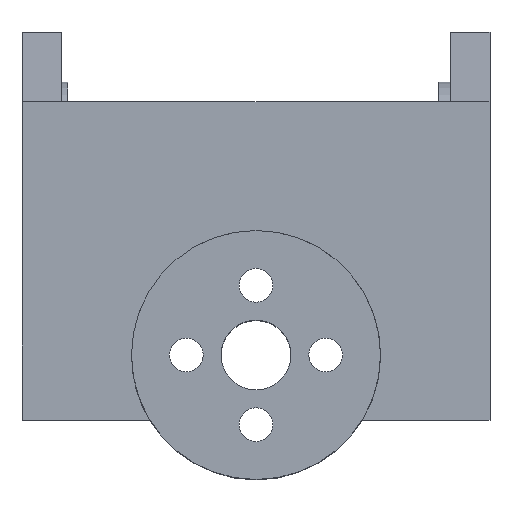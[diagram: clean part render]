
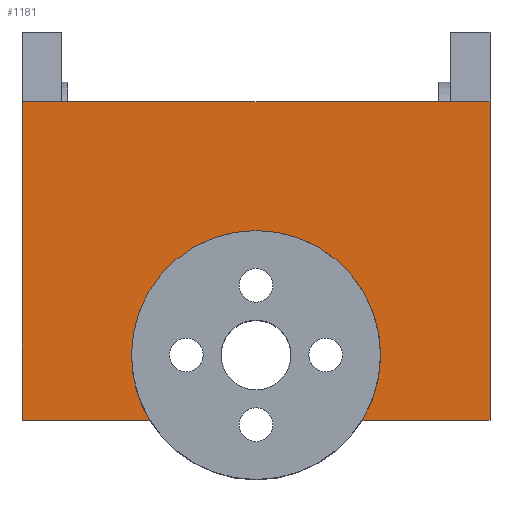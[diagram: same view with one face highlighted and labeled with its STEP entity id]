
A CAD part, top view. The second image highlights one B-rep face of the part: STEP entity #1181.
In plain terms, the highlighted planar face has unit normal (0, 0, 1).
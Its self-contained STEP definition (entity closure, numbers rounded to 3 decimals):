
#60=PLANE('',#1272);
#100=FACE_OUTER_BOUND('',#173,.T.);
#173=EDGE_LOOP('',(#826,#827,#828,#829,#830,#831,#832,#833,#834));
#293=LINE('',#1814,#385);
#294=LINE('',#1816,#386);
#295=LINE('',#1818,#387);
#296=LINE('',#1820,#388);
#297=LINE('',#1821,#389);
#298=LINE('',#1823,#390);
#299=LINE('',#1824,#391);
#385=VECTOR('',#1429,1.);
#386=VECTOR('',#1430,1.);
#387=VECTOR('',#1431,1.);
#388=VECTOR('',#1432,1.);
#389=VECTOR('',#1433,1.);
#390=VECTOR('',#1434,1.);
#391=VECTOR('',#1435,1.);
#475=CIRCLE('',#1269,12.5);
#477=CIRCLE('',#1271,12.5);
#547=VERTEX_POINT('',#1800);
#548=VERTEX_POINT('',#1802);
#551=VERTEX_POINT('',#1808);
#552=VERTEX_POINT('',#1812);
#553=VERTEX_POINT('',#1813);
#554=VERTEX_POINT('',#1815);
#555=VERTEX_POINT('',#1817);
#556=VERTEX_POINT('',#1819);
#557=VERTEX_POINT('',#1822);
#656=EDGE_CURVE('',#547,#548,#475,.T.);
#660=EDGE_CURVE('',#551,#547,#477,.T.);
#661=EDGE_CURVE('',#552,#553,#293,.T.);
#662=EDGE_CURVE('',#554,#552,#294,.T.);
#663=EDGE_CURVE('',#555,#554,#295,.T.);
#664=EDGE_CURVE('',#555,#556,#296,.T.);
#665=EDGE_CURVE('',#548,#556,#297,.T.);
#666=EDGE_CURVE('',#557,#551,#298,.T.);
#667=EDGE_CURVE('',#557,#553,#299,.T.);
#826=ORIENTED_EDGE('',*,*,#661,.F.);
#827=ORIENTED_EDGE('',*,*,#662,.F.);
#828=ORIENTED_EDGE('',*,*,#663,.F.);
#829=ORIENTED_EDGE('',*,*,#664,.T.);
#830=ORIENTED_EDGE('',*,*,#665,.F.);
#831=ORIENTED_EDGE('',*,*,#656,.F.);
#832=ORIENTED_EDGE('',*,*,#660,.F.);
#833=ORIENTED_EDGE('',*,*,#666,.F.);
#834=ORIENTED_EDGE('',*,*,#667,.T.);
#1181=ADVANCED_FACE('',(#100),#60,.T.);
#1269=AXIS2_PLACEMENT_3D('',#1803,#1419,#1420);
#1271=AXIS2_PLACEMENT_3D('',#1810,#1425,#1426);
#1272=AXIS2_PLACEMENT_3D('',#1811,#1427,#1428);
#1419=DIRECTION('center_axis',(0.,0.,1.));
#1420=DIRECTION('ref_axis',(1.,0.,0.));
#1425=DIRECTION('center_axis',(0.,0.,1.));
#1426=DIRECTION('ref_axis',(1.,0.,0.));
#1427=DIRECTION('center_axis',(0.,0.,1.));
#1428=DIRECTION('ref_axis',(1.,0.,0.));
#1429=DIRECTION('',(1.,0.,0.));
#1430=DIRECTION('',(1.,0.,0.));
#1431=DIRECTION('',(1.,0.,0.));
#1432=DIRECTION('',(0.,-1.,0.));
#1433=DIRECTION('',(-1.,0.,0.));
#1434=DIRECTION('',(-1.,0.,0.));
#1435=DIRECTION('',(0.,1.,0.));
#1800=CARTESIAN_POINT('',(-12.5,-17.5,409.));
#1802=CARTESIAN_POINT('',(-10.677,-24.,409.));
#1803=CARTESIAN_POINT('Origin',(0.,-17.5,409.));
#1808=CARTESIAN_POINT('',(10.677,-24.,409.));
#1810=CARTESIAN_POINT('Origin',(0.,-17.5,409.));
#1811=CARTESIAN_POINT('Origin',(-23.5,-24.,409.));
#1812=CARTESIAN_POINT('',(19.5,8.,409.));
#1813=CARTESIAN_POINT('',(23.5,8.,409.));
#1814=CARTESIAN_POINT('',(-23.5,8.,409.));
#1815=CARTESIAN_POINT('',(-19.5,8.,409.));
#1816=CARTESIAN_POINT('',(-23.5,8.,409.));
#1817=CARTESIAN_POINT('',(-23.5,8.,409.));
#1818=CARTESIAN_POINT('',(-23.5,8.,409.));
#1819=CARTESIAN_POINT('',(-23.5,-24.,409.));
#1820=CARTESIAN_POINT('',(-23.5,8.,409.));
#1821=CARTESIAN_POINT('',(23.5,-24.,409.));
#1822=CARTESIAN_POINT('',(23.5,-24.,409.));
#1823=CARTESIAN_POINT('',(23.5,-24.,409.));
#1824=CARTESIAN_POINT('',(23.5,-24.,409.));
